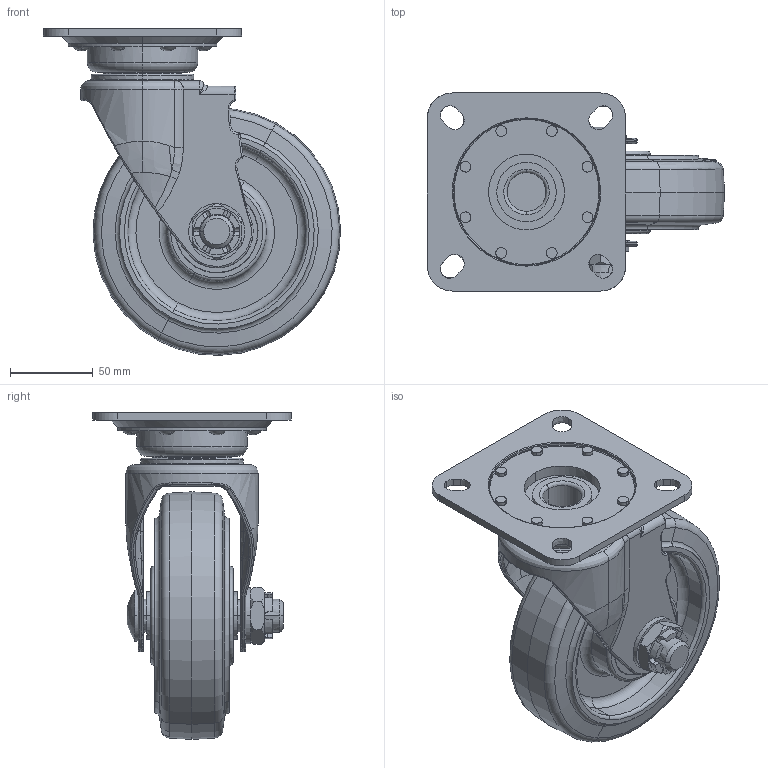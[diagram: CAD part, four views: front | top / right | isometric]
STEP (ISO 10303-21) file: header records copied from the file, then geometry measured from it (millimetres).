
FILE_DESCRIPTION(('CATIA V5 STEP Exchange'),'2;1');
FILE_NAME('Y:\中荷重用キャスター\TUS\TUS-150AWJ_131015.stp','2014-07-07T02:00:53+00:00',('none'),('none'),'Version 5-6 Release 2012','CATIA V5 STEP AP214','none');
FILE_SCHEMA(('AUTOMOTIVE_DESIGN { 1 0 10303 214 1 1 1 1 }'));
Products named in the file (1): TUS-150AWJ
Bounding box: 179.98 x 120 x 197.98 mm (x, y, z)
Volume: 711122 mm3; surface area: 270960.5 mm2
Topology: 53 solids, 53 shells, 940 faces, 2426 edges, 1419 vertices
Faces by surface type: plane 269, bspline 241, cylinder 136, torus 135, sphere 133, cone 20, extrusion 6
Entity records: 40925 total; most frequent: CARTESIAN_POINT 22307, ORIENTED_EDGE 4430, EDGE_CURVE 2215, DIRECTION 2100, VERTEX_POINT 1412, AXIS2_PLACEMENT_3D 1095, EDGE_LOOP 1049, B_SPLINE_CURVE_WITH_KNOTS 969
